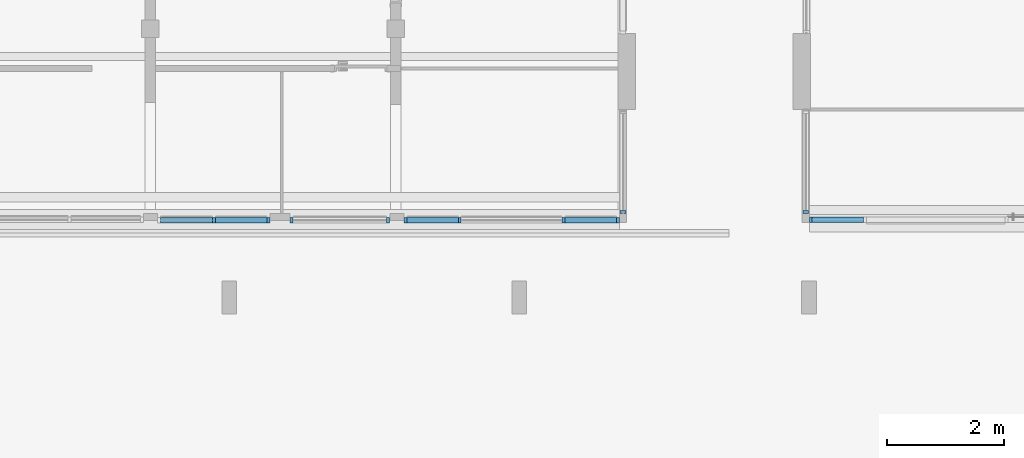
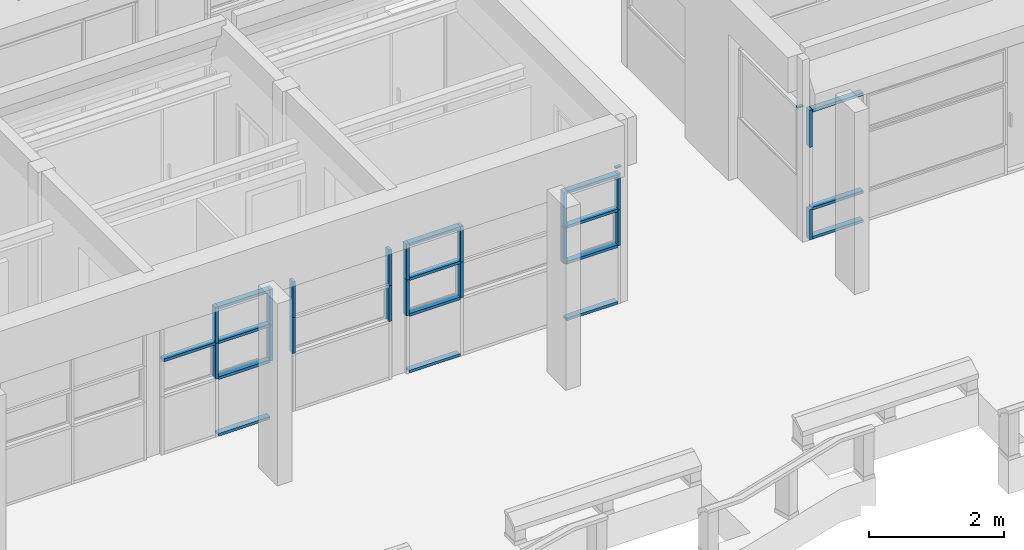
# One storey, part 23 of 117: 36 members, 6 elements without a shape of their own.
"""IFC4 building model written with IfcOpenShell, lengths in metres."""

from ifc_helpers import new_model, entity, si_unit, converted_unit, derived_unit, direction, frame, origin, place, context, subcontext, project, spatial, indexed_curve, outline, extrude, source, transform, mapped, material, type_object, type_shapes, element, aggregate, save


model = new_model("IFC4")

# Units and contexts
model_context = context("Model", 3, precision=1e-05, world=origin(), true_north=direction((6.123031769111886e-17, 1.0)))
body_context = subcontext(model_context, "Body", "Model", "MODEL_VIEW")
ifc_project = project(units=[si_unit("LENGTHUNIT", "METRE"), si_unit("AREAUNIT", "SQUARE_METRE"), si_unit("VOLUMEUNIT", "CUBIC_METRE"), converted_unit("PLANEANGLEUNIT", "DEGREE", entity("IfcRatioMeasure", 0.017453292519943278), si_unit("PLANEANGLEUNIT", "RADIAN"), dimensions=[0, 0, 0, 0, 0, 0, 0]), si_unit("MASSUNIT", "GRAM", prefix="KILO"), derived_unit("MASSDENSITYUNIT", [(si_unit("MASSUNIT", "GRAM", prefix="KILO"), 1), (si_unit("LENGTHUNIT", "METRE"), -3)]), derived_unit("MOMENTOFINERTIAUNIT", [(si_unit("LENGTHUNIT", "METRE"), 4)]), si_unit("TIMEUNIT", "SECOND"), si_unit("FREQUENCYUNIT", "HERTZ"), si_unit("THERMODYNAMICTEMPERATUREUNIT", "DEGREE_CELSIUS"), derived_unit("THERMALTRANSMITTANCEUNIT", [(si_unit("MASSUNIT", "GRAM", prefix="KILO"), 1), (si_unit("THERMODYNAMICTEMPERATUREUNIT", "KELVIN"), -1), (si_unit("TIMEUNIT", "SECOND"), -3)]), derived_unit("VOLUMETRICFLOWRATEUNIT", [(si_unit("LENGTHUNIT", "METRE"), 3), (si_unit("TIMEUNIT", "SECOND"), -1)]), derived_unit("MASSFLOWRATEUNIT", [(si_unit("MASSUNIT", "GRAM", prefix="KILO"), 1), (si_unit("TIMEUNIT", "SECOND"), -1)]), derived_unit("ROTATIONALFREQUENCYUNIT", [(si_unit("TIMEUNIT", "SECOND"), -1)]), si_unit("ELECTRICCURRENTUNIT", "AMPERE"), si_unit("ELECTRICVOLTAGEUNIT", "VOLT"), si_unit("POWERUNIT", "WATT"), si_unit("FORCEUNIT", "NEWTON", prefix="KILO"), si_unit("ILLUMINANCEUNIT", "LUX"), si_unit("LUMINOUSFLUXUNIT", "LUMEN"), si_unit("LUMINOUSINTENSITYUNIT", "CANDELA"), derived_unit("USERDEFINED", [(si_unit("MASSUNIT", "GRAM", prefix="KILO"), -1), (si_unit("LENGTHUNIT", "METRE"), -2), (si_unit("TIMEUNIT", "SECOND"), 3), (si_unit("LUMINOUSFLUXUNIT", "LUMEN"), 1)]), derived_unit("SOUNDPOWERUNIT", [(si_unit("MASSUNIT", "GRAM", prefix="KILO"), 1), (si_unit("LENGTHUNIT", "METRE"), 2), (si_unit("TIMEUNIT", "SECOND"), -3)]), derived_unit("SOUNDPRESSUREUNIT", [(si_unit("MASSUNIT", "GRAM", prefix="KILO"), 1), (si_unit("LENGTHUNIT", "METRE"), -1), (si_unit("TIMEUNIT", "SECOND"), -2)]), derived_unit("LINEARVELOCITYUNIT", [(si_unit("LENGTHUNIT", "METRE"), 1), (si_unit("TIMEUNIT", "SECOND"), -1)]), si_unit("PRESSUREUNIT", "PASCAL"), derived_unit("USERDEFINED", [(si_unit("LENGTHUNIT", "METRE"), -2), (si_unit("MASSUNIT", "GRAM", prefix="KILO"), 1), (si_unit("TIMEUNIT", "SECOND"), -2)]), derived_unit("LINEARFORCEUNIT", [(si_unit("MASSUNIT", "GRAM", prefix="KILO"), 1), (si_unit("LENGTHUNIT", "METRE"), 1), (si_unit("TIMEUNIT", "SECOND"), -2), (si_unit("LENGTHUNIT", "METRE"), -1)]), derived_unit("PLANARFORCEUNIT", [(si_unit("MASSUNIT", "GRAM", prefix="KILO"), 1), (si_unit("LENGTHUNIT", "METRE"), 1), (si_unit("TIMEUNIT", "SECOND"), -2), (si_unit("LENGTHUNIT", "METRE"), -2)])], contexts=[model_context])

# Site, building, storey
site_placement = place(None, origin())
site = spatial("IfcSite", under=ifc_project, at=site_placement, Name="Superficie", CompositionType="ELEMENT")
building_placement = place(site_placement, origin())
building = spatial("IfcBuilding", under=site, at=building_placement, CompositionType="ELEMENT")
storey_placement = place(building_placement, origin())
storey = spatial("IfcBuildingStorey", under=building, at=storey_placement, Name="Nivel 0", CompositionType="ELEMENT", Elevation=0.0)

# Curtain wall, member
curtain_wall_type = type_object("IfcCurtainWallType", Name="Muro cortina:Muro cortina - simple", PredefinedType="NOTDEFINED")
curtain_wall_1_placement = place(storey_placement, origin())
curtain_wall_1 = element("IfcCurtainWall", 1, at=curtain_wall_1_placement, inside=storey, type_object=curtain_wall_type, Name="Muro cortina:Muro cortina - simple", ObjectType="Muro cortina:Muro cortina - simple", PredefinedType="NOTDEFINED")
ifc_material = material(Name="<Unnamed>")
member_type_1 = type_object("IfcMemberType", Name="Montante rectangular:Montante rectangular - 5 x 10 cm", PredefinedType="MULLION", material=ifc_material)
shared_shape_1 = source(origin(), body_context, "Body", "SweptSolid", [
    extrude(outline(indexed_curve([(-0.05, -0.025), (0.05, -0.025), (0.05, 0.025), (-0.05, 0.025), (-0.05, -0.025)], self_intersect=False)), frame((0.0, 0.0, -0.025), z_axis=(0.0, 0.0, 1.0), x_axis=(0.0, -1.0, 0.0)), (0.0, 0.0, 1.0), 0.025),
])
type_shapes(member_type_1, [shared_shape_1])
member_1_placement = place(curtain_wall_1_placement, frame((12.786799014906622, -1.5891707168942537, 2.3249999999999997), z_axis=(0.0, 0.0, -1.0), x_axis=(0.0, -1.0, 0.0)))
member_1 = element("IfcMember", 2, at=member_1_placement, type_object=member_type_1, material=ifc_material, Name="Montante rectangular:Montante rectangular - 5 x 10 cm", ObjectType="Montante rectangular:Montante rectangular - 5 x 10 cm", PredefinedType="MULLION", context=body_context, shape_type="MappedRepresentation", body=[
    mapped(shared_shape_1, transform((0.0, 0.0, 0.0), scale=1.0)),
])
aggregate(curtain_wall_1, [member_1])

curtain_wall_2_placement = place(storey_placement, origin())
curtain_wall_2 = element("IfcCurtainWall", 3, at=curtain_wall_2_placement, inside=storey, type_object=curtain_wall_type, Name="Muro cortina:Muro cortina - simple", ObjectType="Muro cortina:Muro cortina - simple", PredefinedType="NOTDEFINED")
member_2_placement = place(curtain_wall_2_placement, frame((15.906799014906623, -1.5891707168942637, 2.3249999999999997), z_axis=(0.0, 0.0, -1.0), x_axis=(0.0, -1.0, 0.0)))
member_2 = element("IfcMember", 4, at=member_2_placement, type_object=member_type_1, material=ifc_material, Name="Montante rectangular:Montante rectangular - 5 x 10 cm", ObjectType="Montante rectangular:Montante rectangular - 5 x 10 cm", PredefinedType="MULLION", context=body_context, shape_type="MappedRepresentation", body=[
    mapped(shared_shape_1, transform((0.0, 0.0, 0.0), scale=1.0)),
])
aggregate(curtain_wall_2, [member_2])

curtain_wall_3_placement = place(storey_placement, origin())
curtain_wall_3 = element("IfcCurtainWall", 5, at=curtain_wall_3_placement, inside=storey, type_object=curtain_wall_type, Name="Muro cortina:Muro cortina - simple", ObjectType="Muro cortina:Muro cortina - simple", PredefinedType="NOTDEFINED")
member_type_2 = type_object("IfcMemberType", Name="Montante rectangular:Montante rectangular - 5 x 10 cm", PredefinedType="MULLION", material=ifc_material)
shared_shape_2 = source(origin(), body_context, "Body", "SweptSolid", [
    extrude(outline(indexed_curve([(-0.05, -0.025), (0.05, -0.025), (0.05, 0.025), (-0.05, 0.025), (-0.05, -0.025)], self_intersect=False)), frame((0.0, 0.0, -0.8750000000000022), z_axis=(0.0, 0.0, 1.0), x_axis=(0.0, -1.0, 0.0)), (0.0, 0.0, 1.0), 0.8750000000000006),
])
type_shapes(member_type_2, [shared_shape_2])
member_3_placement = place(curtain_wall_3_placement, frame((16.016799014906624, -1.7241707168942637, 0.55), z_axis=(-1.0, 0.0, 0.0), x_axis=(0.0, 0.0, 1.0)))
member_3 = element("IfcMember", 6, at=member_3_placement, type_object=member_type_2, material=ifc_material, Name="Montante rectangular:Montante rectangular - 5 x 10 cm", ObjectType="Montante rectangular:Montante rectangular - 5 x 10 cm", PredefinedType="MULLION", context=body_context, shape_type="MappedRepresentation", body=[
    mapped(shared_shape_2, transform((0.0, 0.0, 0.0), scale=1.0)),
])

# Curtain wall, members
curtain_wall_4_placement = place(storey_placement, origin())
curtain_wall_4 = element("IfcCurtainWall", 7, at=curtain_wall_4_placement, inside=storey, type_object=curtain_wall_type, Name="Muro cortina:Muro cortina - simple", ObjectType="Muro cortina:Muro cortina - simple", PredefinedType="NOTDEFINED")
member_4_placement = place(curtain_wall_4_placement, frame((12.671799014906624, -1.7341707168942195, 1.0499999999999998), z_axis=(1.0, 0.0, 0.0), x_axis=(0.0, 0.0, 1.0)))
member_4 = element("IfcMember", 8, at=member_4_placement, type_object=member_type_2, material=ifc_material, Name="Montante rectangular:Montante rectangular - 5 x 10 cm", ObjectType="Montante rectangular:Montante rectangular - 5 x 10 cm", PredefinedType="MULLION", context=body_context, shape_type="MappedRepresentation", body=[
    mapped(shared_shape_2, transform((0.0, 0.0, 0.0), scale=1.0)),
])
member_5_placement = place(curtain_wall_4_placement, frame((9.971799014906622, -1.7341707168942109, 1.05), z_axis=(1.0, 0.0, 0.0), x_axis=(0.0, 0.0, 1.0)))
member_5 = element("IfcMember", 9, at=member_5_placement, type_object=member_type_2, material=ifc_material, Name="Montante rectangular:Montante rectangular - 5 x 10 cm", ObjectType="Montante rectangular:Montante rectangular - 5 x 10 cm", PredefinedType="MULLION", context=body_context, shape_type="MappedRepresentation", body=[
    mapped(shared_shape_2, transform((0.0, 0.0, 0.0), scale=1.0)),
])
member_6_placement = place(curtain_wall_4_placement, frame((12.671799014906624, -1.7341707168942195, 1.7), z_axis=(1.0, 0.0, 0.0), x_axis=(0.0, 0.0, 1.0)))
member_6 = element("IfcMember", 10, at=member_6_placement, type_object=member_type_2, material=ifc_material, Name="Montante rectangular:Montante rectangular - 5 x 10 cm", ObjectType="Montante rectangular:Montante rectangular - 5 x 10 cm", PredefinedType="MULLION", context=body_context, shape_type="MappedRepresentation", body=[
    mapped(shared_shape_2, transform((0.0, 0.0, 0.0), scale=1.0)),
])
member_7_placement = place(curtain_wall_4_placement, frame((9.971799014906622, -1.7341707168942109, 1.7), z_axis=(1.0, 0.0, 0.0), x_axis=(0.0, 0.0, 1.0)))
member_7 = element("IfcMember", 11, at=member_7_placement, type_object=member_type_2, material=ifc_material, Name="Montante rectangular:Montante rectangular - 5 x 10 cm", ObjectType="Montante rectangular:Montante rectangular - 5 x 10 cm", PredefinedType="MULLION", context=body_context, shape_type="MappedRepresentation", body=[
    mapped(shared_shape_2, transform((0.0, 0.0, 0.0), scale=1.0)),
])

# Member
member_type_3 = type_object("IfcMemberType", Name="Montante rectangular:Montante rectangular - 5 x 10 cm", PredefinedType="MULLION", material=ifc_material)
shared_shape_3 = source(origin(), body_context, "Body", "SweptSolid", [
    extrude(outline(indexed_curve([(-0.05, -0.025), (0.05, -0.025), (0.05, 0.025), (-0.05, 0.025), (-0.05, -0.025)], self_intersect=False)), frame((-0.025, 0.0, -0.55), z_axis=(0.0, 0.0, 1.0), x_axis=(0.0, -1.0, 0.0)), (0.0, 0.0, 1.0), 0.55),
])
type_shapes(member_type_3, [shared_shape_3])
member_8_placement = place(curtain_wall_3_placement, frame((15.966799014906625, -1.7241707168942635, 0.0), z_axis=(0.0, 0.0, -1.0), x_axis=(-1.0, 0.0, 0.0)))
member_8 = element("IfcMember", 12, at=member_8_placement, type_object=member_type_3, material=ifc_material, Name="Montante rectangular:Montante rectangular - 5 x 10 cm", ObjectType="Montante rectangular:Montante rectangular - 5 x 10 cm", PredefinedType="MULLION", context=body_context, shape_type="MappedRepresentation", body=[
    mapped(shared_shape_3, transform((0.0, 0.0, 0.0), scale=1.0)),
])

member_type_4 = type_object("IfcMemberType", Name="Montante rectangular:Montante rectangular - 5 x 10 cm", PredefinedType="MULLION", material=ifc_material)
shared_shape_4 = source(origin(), body_context, "Body", "SweptSolid", [
    extrude(outline(indexed_curve([(-0.05, -0.025), (0.05, -0.025), (0.05, 0.025), (-0.05, 0.025), (-0.05, -0.025)], self_intersect=False)), frame((-0.025, 0.0, -0.8750000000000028), z_axis=(0.0, 0.0, 1.0), x_axis=(0.0, -1.0, 0.0)), (0.0, 0.0, 1.0), 0.8750000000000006),
])
type_shapes(member_type_4, [shared_shape_4])
member_9_placement = place(curtain_wall_3_placement, frame((16.016799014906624, -1.7241707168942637, 2.35), z_axis=(-1.0, 0.0, 0.0), x_axis=(0.0, 0.0, 1.0)))
member_9 = element("IfcMember", 13, at=member_9_placement, type_object=member_type_4, material=ifc_material, Name="Montante rectangular:Montante rectangular - 5 x 10 cm", ObjectType="Montante rectangular:Montante rectangular - 5 x 10 cm", PredefinedType="MULLION", context=body_context, shape_type="MappedRepresentation", body=[
    mapped(shared_shape_4, transform((0.0, 0.0, 0.0), scale=1.0)),
])

member_10_placement = place(curtain_wall_4_placement, frame((12.671799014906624, -1.7341707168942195, 2.35), z_axis=(1.0, 0.0, 0.0), x_axis=(0.0, 0.0, 1.0)))
member_10 = element("IfcMember", 14, at=member_10_placement, type_object=member_type_4, material=ifc_material, Name="Montante rectangular:Montante rectangular - 5 x 10 cm", ObjectType="Montante rectangular:Montante rectangular - 5 x 10 cm", PredefinedType="MULLION", context=body_context, shape_type="MappedRepresentation", body=[
    mapped(shared_shape_4, transform((0.0, 0.0, 0.0), scale=1.0)),
])

member_11_placement = place(curtain_wall_4_placement, frame((9.971799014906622, -1.7341707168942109, 2.3499999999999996), z_axis=(1.0, 0.0, 0.0), x_axis=(0.0, 0.0, 1.0)))
member_11 = element("IfcMember", 15, at=member_11_placement, type_object=member_type_4, material=ifc_material, Name="Montante rectangular:Montante rectangular - 5 x 10 cm", ObjectType="Montante rectangular:Montante rectangular - 5 x 10 cm", PredefinedType="MULLION", context=body_context, shape_type="MappedRepresentation", body=[
    mapped(shared_shape_4, transform((0.0, 0.0, 0.0), scale=1.0)),
])

member_type_5 = type_object("IfcMemberType", Name="Montante rectangular:Montante rectangular - 5 x 10 cm", PredefinedType="MULLION", material=ifc_material)
shared_shape_5 = source(origin(), body_context, "Body", "SweptSolid", [
    extrude(outline(indexed_curve([(-0.05, -0.025), (0.05, -0.025), (0.05, 0.025), (-0.05, 0.025), (-0.05, -0.025)], self_intersect=False)), frame((-0.025, 0.0, -0.8749999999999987), z_axis=(0.0, 0.0, 1.0), x_axis=(0.0, -1.0, 0.0)), (0.0, 0.0, 1.0), 0.8750000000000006),
])
type_shapes(member_type_5, [shared_shape_5])
member_12_placement = place(curtain_wall_3_placement, frame((16.891799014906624, -1.7241707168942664, 0.0), z_axis=(1.0, 0.0, 0.0), x_axis=(0.0, 0.0, -1.0)))
member_12 = element("IfcMember", 16, at=member_12_placement, type_object=member_type_5, material=ifc_material, Name="Montante rectangular:Montante rectangular - 5 x 10 cm", ObjectType="Montante rectangular:Montante rectangular - 5 x 10 cm", PredefinedType="MULLION", context=body_context, shape_type="MappedRepresentation", body=[
    mapped(shared_shape_5, transform((0.0, 0.0, 0.0), scale=1.0)),
])

member_13_placement = place(curtain_wall_4_placement, frame((9.096799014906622, -1.734170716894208, 0.0), z_axis=(-1.0, 0.0, 0.0), x_axis=(0.0, 0.0, -1.0)))
member_13 = element("IfcMember", 17, at=member_13_placement, type_object=member_type_5, material=ifc_material, Name="Montante rectangular:Montante rectangular - 5 x 10 cm", ObjectType="Montante rectangular:Montante rectangular - 5 x 10 cm", PredefinedType="MULLION", context=body_context, shape_type="MappedRepresentation", body=[
    mapped(shared_shape_5, transform((0.0, 0.0, 0.0), scale=1.0)),
])

member_14_placement = place(curtain_wall_4_placement, frame((11.796799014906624, -1.7341707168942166, 0.0), z_axis=(-1.0, 0.0, 0.0), x_axis=(0.0, 0.0, -1.0)))
member_14 = element("IfcMember", 18, at=member_14_placement, type_object=member_type_5, material=ifc_material, Name="Montante rectangular:Montante rectangular - 5 x 10 cm", ObjectType="Montante rectangular:Montante rectangular - 5 x 10 cm", PredefinedType="MULLION", context=body_context, shape_type="MappedRepresentation", body=[
    mapped(shared_shape_5, transform((0.0, 0.0, 0.0), scale=1.0)),
])

member_type_6 = type_object("IfcMemberType", Name="Montante rectangular:Montante rectangular - 5 x 10 cm", PredefinedType="MULLION", material=ifc_material)
shared_shape_6 = source(origin(), body_context, "Body", "SweptSolid", [
    extrude(outline(indexed_curve([(-0.05, -0.025), (0.05, -0.025), (0.05, 0.025), (-0.05, 0.025), (-0.05, -0.025)], self_intersect=False)), frame((-0.025, 0.0, -0.6749999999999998), z_axis=(0.0, 0.0, 1.0), x_axis=(0.0, -1.0, 0.0)), (0.0, 0.0, 1.0), 0.6749999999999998),
])
type_shapes(member_type_6, [shared_shape_6])
member_15_placement = place(curtain_wall_3_placement, frame((15.966799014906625, -1.7241707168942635, 1.675), z_axis=(0.0, 0.0, -1.0), x_axis=(-1.0, 0.0, 0.0)))
member_15 = element("IfcMember", 19, at=member_15_placement, type_object=member_type_6, material=ifc_material, Name="Montante rectangular:Montante rectangular - 5 x 10 cm", ObjectType="Montante rectangular:Montante rectangular - 5 x 10 cm", PredefinedType="MULLION", context=body_context, shape_type="MappedRepresentation", body=[
    mapped(shared_shape_6, transform((0.0, 0.0, 0.0), scale=1.0)),
])

aggregate(curtain_wall_3, [member_8, member_3, member_9, member_12, member_15])

# Curtain wall, member
curtain_wall_5_placement = place(storey_placement, origin())
curtain_wall_5 = element("IfcCurtainWall", 20, at=curtain_wall_5_placement, inside=storey, type_object=curtain_wall_type, Name="Muro cortina:Muro cortina - simple", ObjectType="Muro cortina:Muro cortina - simple", PredefinedType="NOTDEFINED")
member_type_7 = type_object("IfcMemberType", Name="Montante rectangular:Montante rectangular - 5 x 10 cm", PredefinedType="MULLION", material=ifc_material)
shared_shape_7 = source(origin(), body_context, "Body", "SweptSolid", [
    extrude(outline(indexed_curve([(-0.05, -0.025), (0.05, -0.025), (0.05, 0.025), (-0.05, 0.025), (-0.05, -0.025)], self_intersect=False)), frame((-0.025, 0.0, -0.6500000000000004), z_axis=(0.0, 0.0, 1.0), x_axis=(0.0, -1.0, 0.0)), (0.0, 0.0, 1.0), 0.6500000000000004),
])
type_shapes(member_type_7, [shared_shape_7])
member_16_placement = place(curtain_wall_5_placement, frame((7.096799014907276, -1.734170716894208, 2.35), z_axis=(0.0, 0.0, 1.0), x_axis=(-1.0, 0.0, 0.0)))
member_16 = element("IfcMember", 21, at=member_16_placement, type_object=member_type_7, material=ifc_material, Name="Montante rectangular:Montante rectangular - 5 x 10 cm", ObjectType="Montante rectangular:Montante rectangular - 5 x 10 cm", PredefinedType="MULLION", context=body_context, shape_type="MappedRepresentation", body=[
    mapped(shared_shape_7, transform((0.0, 0.0, 0.0), scale=1.0)),
])

# Member
member_17_placement = place(curtain_wall_4_placement, frame((9.046799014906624, -1.7341707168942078, 2.35), z_axis=(0.0, 0.0, 1.0), x_axis=(-1.0, 0.0, 0.0)))
member_17 = element("IfcMember", 22, at=member_17_placement, type_object=member_type_7, material=ifc_material, Name="Montante rectangular:Montante rectangular - 5 x 10 cm", ObjectType="Montante rectangular:Montante rectangular - 5 x 10 cm", PredefinedType="MULLION", context=body_context, shape_type="MappedRepresentation", body=[
    mapped(shared_shape_7, transform((0.0, 0.0, 0.0), scale=1.0)),
])

# Curtain wall, member
curtain_wall_6_placement = place(storey_placement, origin())
curtain_wall_6 = element("IfcCurtainWall", 23, at=curtain_wall_6_placement, inside=storey, type_object=curtain_wall_type, Name="Muro cortina:Muro cortina - simple", ObjectType="Muro cortina:Muro cortina - simple", PredefinedType="NOTDEFINED")
member_type_8 = type_object("IfcMemberType", Name="Montante rectangular:Montante rectangular - 5 x 10 cm", PredefinedType="MULLION", material=ifc_material)
shared_shape_8 = source(origin(), body_context, "Body", "SweptSolid", [
    extrude(outline(indexed_curve([(-0.05, -0.025), (0.05, -0.025), (0.05, 0.025), (-0.05, 0.025), (-0.05, -0.025)], self_intersect=False)), frame((-0.025, 0.0, -0.65), z_axis=(0.0, 0.0, 1.0), x_axis=(0.0, -1.0, 0.0)), (0.0, 0.0, 1.0), 0.65),
])
type_shapes(member_type_8, [shared_shape_8])
member_18_placement = place(curtain_wall_6_placement, frame((6.756799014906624, -1.734170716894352, 1.0499999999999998), z_axis=(0.0, 0.0, -1.0), x_axis=(1.0, 0.0, 0.0)))
member_18 = element("IfcMember", 24, at=member_18_placement, type_object=member_type_8, material=ifc_material, Name="Montante rectangular:Montante rectangular - 5 x 10 cm", ObjectType="Montante rectangular:Montante rectangular - 5 x 10 cm", PredefinedType="MULLION", context=body_context, shape_type="MappedRepresentation", body=[
    mapped(shared_shape_8, transform((0.0, 0.0, 0.0), scale=1.0)),
])

# Member
member_19_placement = place(curtain_wall_5_placement, frame((8.796799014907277, -1.7341707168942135, 1.0499999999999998), z_axis=(0.0, 0.0, -1.0), x_axis=(1.0, 0.0, 0.0)))
member_19 = element("IfcMember", 25, at=member_19_placement, type_object=member_type_8, material=ifc_material, Name="Montante rectangular:Montante rectangular - 5 x 10 cm", ObjectType="Montante rectangular:Montante rectangular - 5 x 10 cm", PredefinedType="MULLION", context=body_context, shape_type="MappedRepresentation", body=[
    mapped(shared_shape_8, transform((0.0, 0.0, 0.0), scale=1.0)),
])

member_20_placement = place(curtain_wall_4_placement, frame((12.721799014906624, -1.7341707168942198, 1.0499999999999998), z_axis=(0.0, 0.0, -1.0), x_axis=(1.0, 0.0, 0.0)))
member_20 = element("IfcMember", 26, at=member_20_placement, type_object=member_type_8, material=ifc_material, Name="Montante rectangular:Montante rectangular - 5 x 10 cm", ObjectType="Montante rectangular:Montante rectangular - 5 x 10 cm", PredefinedType="MULLION", context=body_context, shape_type="MappedRepresentation", body=[
    mapped(shared_shape_8, transform((0.0, 0.0, 0.0), scale=1.0)),
])

member_type_9 = type_object("IfcMemberType", Name="Montante rectangular:Montante rectangular - 5 x 10 cm", PredefinedType="MULLION", material=ifc_material)
shared_shape_9 = source(origin(), body_context, "Body", "SweptSolid", [
    extrude(outline(indexed_curve([(-0.05, -0.025), (0.05, -0.025), (0.05, 0.025), (-0.05, 0.025), (-0.05, -0.025)], self_intersect=False)), frame((0.0, 0.0, -0.65), z_axis=(0.0, 0.0, 1.0), x_axis=(0.0, -1.0, 0.0)), (0.0, 0.0, 1.0), 0.65),
])
type_shapes(member_type_9, [shared_shape_9])
member_21_placement = place(curtain_wall_6_placement, frame((5.796799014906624, -1.7341707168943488, 1.05), z_axis=(0.0, 0.0, -1.0), x_axis=(1.0, 0.0, 0.0)))
member_21 = element("IfcMember", 27, at=member_21_placement, type_object=member_type_9, material=ifc_material, Name="Montante rectangular:Montante rectangular - 5 x 10 cm", ObjectType="Montante rectangular:Montante rectangular - 5 x 10 cm", PredefinedType="MULLION", context=body_context, shape_type="MappedRepresentation", body=[
    mapped(shared_shape_9, transform((0.0, 0.0, 0.0), scale=1.0)),
])

member_22_placement = place(curtain_wall_4_placement, frame((9.996799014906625, -1.7341707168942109, 1.05), z_axis=(0.0, 0.0, -1.0), x_axis=(1.0, 0.0, 0.0)))
member_22 = element("IfcMember", 28, at=member_22_placement, type_object=member_type_9, material=ifc_material, Name="Montante rectangular:Montante rectangular - 5 x 10 cm", ObjectType="Montante rectangular:Montante rectangular - 5 x 10 cm", PredefinedType="MULLION", context=body_context, shape_type="MappedRepresentation", body=[
    mapped(shared_shape_9, transform((0.0, 0.0, 0.0), scale=1.0)),
])

member_23_placement = place(curtain_wall_4_placement, frame((11.771799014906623, -1.7341707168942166, 1.05), z_axis=(0.0, 0.0, -1.0), x_axis=(1.0, 0.0, 0.0)))
member_23 = element("IfcMember", 29, at=member_23_placement, type_object=member_type_9, material=ifc_material, Name="Montante rectangular:Montante rectangular - 5 x 10 cm", ObjectType="Montante rectangular:Montante rectangular - 5 x 10 cm", PredefinedType="MULLION", context=body_context, shape_type="MappedRepresentation", body=[
    mapped(shared_shape_9, transform((0.0, 0.0, 0.0), scale=1.0)),
])

member_type_10 = type_object("IfcMemberType", Name="Montante rectangular:Montante rectangular - 5 x 10 cm", PredefinedType="MULLION", material=ifc_material)
shared_shape_10 = source(origin(), body_context, "Body", "SweptSolid", [
    extrude(outline(indexed_curve([(-0.05, -0.025), (0.05, -0.025), (0.05, 0.025), (-0.05, 0.025), (-0.05, -0.025)], self_intersect=False)), frame((-0.025, 0.0, -0.6499999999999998), z_axis=(0.0, 0.0, 1.0), x_axis=(0.0, -1.0, 0.0)), (0.0, 0.0, 1.0), 0.6499999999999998),
])
type_shapes(member_type_10, [shared_shape_10])
member_24_placement = place(curtain_wall_5_placement, frame((7.096799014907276, -1.734170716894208, 1.7), z_axis=(0.0, 0.0, 1.0), x_axis=(-1.0, 0.0, 0.0)))
member_24 = element("IfcMember", 30, at=member_24_placement, type_object=member_type_10, material=ifc_material, Name="Montante rectangular:Montante rectangular - 5 x 10 cm", ObjectType="Montante rectangular:Montante rectangular - 5 x 10 cm", PredefinedType="MULLION", context=body_context, shape_type="MappedRepresentation", body=[
    mapped(shared_shape_10, transform((0.0, 0.0, 0.0), scale=1.0)),
])

member_25_placement = place(curtain_wall_4_placement, frame((9.046799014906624, -1.7341707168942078, 1.7), z_axis=(0.0, 0.0, 1.0), x_axis=(-1.0, 0.0, 0.0)))
member_25 = element("IfcMember", 31, at=member_25_placement, type_object=member_type_10, material=ifc_material, Name="Montante rectangular:Montante rectangular - 5 x 10 cm", ObjectType="Montante rectangular:Montante rectangular - 5 x 10 cm", PredefinedType="MULLION", context=body_context, shape_type="MappedRepresentation", body=[
    mapped(shared_shape_10, transform((0.0, 0.0, 0.0), scale=1.0)),
])

member_type_11 = type_object("IfcMemberType", Name="Montante rectangular:Montante rectangular - 5 x 10 cm", PredefinedType="MULLION", material=ifc_material)
shared_shape_11 = source(origin(), body_context, "Body", "SweptSolid", [
    extrude(outline(indexed_curve([(-0.05, -0.025), (0.05, -0.025), (0.05, 0.025), (-0.05, 0.025), (-0.05, -0.025)], self_intersect=False)), frame((-0.025, 0.0, -0.65), z_axis=(0.0, 0.0, 1.0), x_axis=(0.0, -1.0, 0.0)), (0.0, 0.0, 1.0), 0.65),
])
type_shapes(member_type_11, [shared_shape_11])
member_26_placement = place(curtain_wall_6_placement, frame((6.756799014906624, -1.734170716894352, 1.7), z_axis=(0.0, 0.0, -1.0), x_axis=(1.0, 0.0, 0.0)))
member_26 = element("IfcMember", 32, at=member_26_placement, type_object=member_type_11, material=ifc_material, Name="Montante rectangular:Montante rectangular - 5 x 10 cm", ObjectType="Montante rectangular:Montante rectangular - 5 x 10 cm", PredefinedType="MULLION", context=body_context, shape_type="MappedRepresentation", body=[
    mapped(shared_shape_11, transform((0.0, 0.0, 0.0), scale=1.0)),
])

member_27_placement = place(curtain_wall_5_placement, frame((8.796799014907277, -1.7341707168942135, 1.7), z_axis=(0.0, 0.0, -1.0), x_axis=(1.0, 0.0, 0.0)))
member_27 = element("IfcMember", 33, at=member_27_placement, type_object=member_type_11, material=ifc_material, Name="Montante rectangular:Montante rectangular - 5 x 10 cm", ObjectType="Montante rectangular:Montante rectangular - 5 x 10 cm", PredefinedType="MULLION", context=body_context, shape_type="MappedRepresentation", body=[
    mapped(shared_shape_11, transform((0.0, 0.0, 0.0), scale=1.0)),
])

aggregate(curtain_wall_5, [member_16, member_19, member_24, member_27])

member_28_placement = place(curtain_wall_4_placement, frame((12.721799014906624, -1.7341707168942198, 1.7), z_axis=(0.0, 0.0, -1.0), x_axis=(1.0, 0.0, 0.0)))
member_28 = element("IfcMember", 34, at=member_28_placement, type_object=member_type_11, material=ifc_material, Name="Montante rectangular:Montante rectangular - 5 x 10 cm", ObjectType="Montante rectangular:Montante rectangular - 5 x 10 cm", PredefinedType="MULLION", context=body_context, shape_type="MappedRepresentation", body=[
    mapped(shared_shape_11, transform((0.0, 0.0, 0.0), scale=1.0)),
])

member_type_12 = type_object("IfcMemberType", Name="Montante rectangular:Montante rectangular - 5 x 10 cm", PredefinedType="MULLION", material=ifc_material)
shared_shape_12 = source(origin(), body_context, "Body", "SweptSolid", [
    extrude(outline(indexed_curve([(-0.05, -0.025), (0.05, -0.025), (0.05, 0.025), (-0.05, 0.025), (-0.05, -0.025)], self_intersect=False)), frame((0.0, 0.0, -0.65), z_axis=(0.0, 0.0, 1.0), x_axis=(0.0, -1.0, 0.0)), (0.0, 0.0, 1.0), 0.65),
])
type_shapes(member_type_12, [shared_shape_12])
member_29_placement = place(curtain_wall_6_placement, frame((5.796799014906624, -1.7341707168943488, 1.7), z_axis=(0.0, 0.0, -1.0), x_axis=(1.0, 0.0, 0.0)))
member_29 = element("IfcMember", 35, at=member_29_placement, type_object=member_type_12, material=ifc_material, Name="Montante rectangular:Montante rectangular - 5 x 10 cm", ObjectType="Montante rectangular:Montante rectangular - 5 x 10 cm", PredefinedType="MULLION", context=body_context, shape_type="MappedRepresentation", body=[
    mapped(shared_shape_12, transform((0.0, 0.0, 0.0), scale=1.0)),
])

member_30_placement = place(curtain_wall_4_placement, frame((9.996799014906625, -1.7341707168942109, 1.7), z_axis=(0.0, 0.0, -1.0), x_axis=(1.0, 0.0, 0.0)))
member_30 = element("IfcMember", 36, at=member_30_placement, type_object=member_type_12, material=ifc_material, Name="Montante rectangular:Montante rectangular - 5 x 10 cm", ObjectType="Montante rectangular:Montante rectangular - 5 x 10 cm", PredefinedType="MULLION", context=body_context, shape_type="MappedRepresentation", body=[
    mapped(shared_shape_12, transform((0.0, 0.0, 0.0), scale=1.0)),
])

member_31_placement = place(curtain_wall_4_placement, frame((11.771799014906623, -1.7341707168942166, 1.7), z_axis=(0.0, 0.0, -1.0), x_axis=(1.0, 0.0, 0.0)))
member_31 = element("IfcMember", 37, at=member_31_placement, type_object=member_type_12, material=ifc_material, Name="Montante rectangular:Montante rectangular - 5 x 10 cm", ObjectType="Montante rectangular:Montante rectangular - 5 x 10 cm", PredefinedType="MULLION", context=body_context, shape_type="MappedRepresentation", body=[
    mapped(shared_shape_12, transform((0.0, 0.0, 0.0), scale=1.0)),
])

aggregate(curtain_wall_4, [member_10, member_17, member_13, member_14, member_11, member_20, member_22, member_23, member_4, member_5, member_25, member_28, member_30, member_31, member_6, member_7])

member_type_13 = type_object("IfcMemberType", Name="Montante rectangular:Montante rectangular - 5 x 10 cm", PredefinedType="MULLION", material=ifc_material)
shared_shape_13 = source(origin(), body_context, "Body", "SweptSolid", [
    extrude(outline(indexed_curve([(-0.05, -0.025), (0.05, -0.025), (0.05, 0.025), (-0.05, 0.025), (-0.05, -0.025)], self_intersect=False)), frame((-0.025, 0.0, -0.885), z_axis=(0.0, 0.0, 1.0), x_axis=(0.0, -1.0, 0.0)), (0.0, 0.0, 1.0), 0.8849999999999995),
])
type_shapes(member_type_13, [shared_shape_13])
member_32_placement = place(curtain_wall_6_placement, frame((6.706799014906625, -1.7341707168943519, 2.35), z_axis=(1.0, 0.0, 0.0), x_axis=(0.0, 0.0, 1.0)))
member_32 = element("IfcMember", 38, at=member_32_placement, type_object=member_type_13, material=ifc_material, Name="Montante rectangular:Montante rectangular - 5 x 10 cm", ObjectType="Montante rectangular:Montante rectangular - 5 x 10 cm", PredefinedType="MULLION", context=body_context, shape_type="MappedRepresentation", body=[
    mapped(shared_shape_13, transform((0.0, 0.0, 0.0), scale=1.0)),
])

member_type_14 = type_object("IfcMemberType", Name="Montante rectangular:Montante rectangular - 5 x 10 cm", PredefinedType="MULLION", material=ifc_material)
shared_shape_14 = source(origin(), body_context, "Body", "SweptSolid", [
    extrude(outline(indexed_curve([(-0.05, -0.025), (0.05, -0.025), (0.05, 0.025), (-0.05, 0.025), (-0.05, -0.025)], self_intersect=False)), frame((-0.025, 0.0, -0.885), z_axis=(0.0, 0.0, 1.0), x_axis=(0.0, -1.0, 0.0)), (0.0, 0.0, 1.0), 0.8850000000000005),
])
type_shapes(member_type_14, [shared_shape_14])
member_33_placement = place(curtain_wall_6_placement, frame((5.821799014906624, -1.7341707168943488, 0.0), z_axis=(-1.0, 0.0, 0.0), x_axis=(0.0, 0.0, -1.0)))
member_33 = element("IfcMember", 39, at=member_33_placement, type_object=member_type_14, material=ifc_material, Name="Montante rectangular:Montante rectangular - 5 x 10 cm", ObjectType="Montante rectangular:Montante rectangular - 5 x 10 cm", PredefinedType="MULLION", context=body_context, shape_type="MappedRepresentation", body=[
    mapped(shared_shape_14, transform((0.0, 0.0, 0.0), scale=1.0)),
])

member_type_15 = type_object("IfcMemberType", Name="Montante rectangular:Montante rectangular - 5 x 10 cm", PredefinedType="MULLION", material=ifc_material)
shared_shape_15 = source(origin(), body_context, "Body", "SweptSolid", [
    extrude(outline(indexed_curve([(-0.05, -0.025), (0.05, -0.025), (0.05, 0.025), (-0.05, 0.025), (-0.05, -0.025)], self_intersect=False)), frame((0.0, 0.0, -0.8849999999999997), z_axis=(0.0, 0.0, 1.0), x_axis=(0.0, -1.0, 0.0)), (0.0, 0.0, 1.0), 0.8849999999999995),
])
type_shapes(member_type_15, [shared_shape_15])
member_34_placement = place(curtain_wall_6_placement, frame((6.706799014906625, -1.7341707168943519, 1.0499999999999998), z_axis=(1.0, 0.0, 0.0), x_axis=(0.0, 0.0, 1.0)))
member_34 = element("IfcMember", 40, at=member_34_placement, type_object=member_type_15, material=ifc_material, Name="Montante rectangular:Montante rectangular - 5 x 10 cm", ObjectType="Montante rectangular:Montante rectangular - 5 x 10 cm", PredefinedType="MULLION", context=body_context, shape_type="MappedRepresentation", body=[
    mapped(shared_shape_15, transform((0.0, 0.0, 0.0), scale=1.0)),
])

member_35_placement = place(curtain_wall_6_placement, frame((6.706799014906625, -1.7341707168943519, 1.7), z_axis=(1.0, 0.0, 0.0), x_axis=(0.0, 0.0, 1.0)))
member_35 = element("IfcMember", 41, at=member_35_placement, type_object=member_type_15, material=ifc_material, Name="Montante rectangular:Montante rectangular - 5 x 10 cm", ObjectType="Montante rectangular:Montante rectangular - 5 x 10 cm", PredefinedType="MULLION", context=body_context, shape_type="MappedRepresentation", body=[
    mapped(shared_shape_15, transform((0.0, 0.0, 0.0), scale=1.0)),
])

member_36_placement = place(curtain_wall_6_placement, frame((5.771799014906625, -1.7341707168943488, 1.7), z_axis=(1.0, 0.0, 0.0), x_axis=(0.0, 0.0, 1.0)))
member_36 = element("IfcMember", 42, at=member_36_placement, type_object=member_type_15, material=ifc_material, Name="Montante rectangular:Montante rectangular - 5 x 10 cm", ObjectType="Montante rectangular:Montante rectangular - 5 x 10 cm", PredefinedType="MULLION", context=body_context, shape_type="MappedRepresentation", body=[
    mapped(shared_shape_15, transform((0.0, 0.0, 0.0), scale=1.0)),
])

aggregate(curtain_wall_6, [member_32, member_33, member_18, member_21, member_34, member_26, member_29, member_35, member_36])

save(model, "model.ifc")
